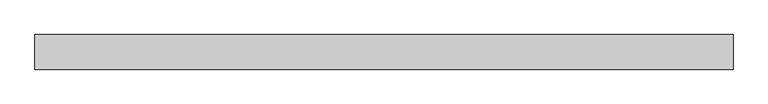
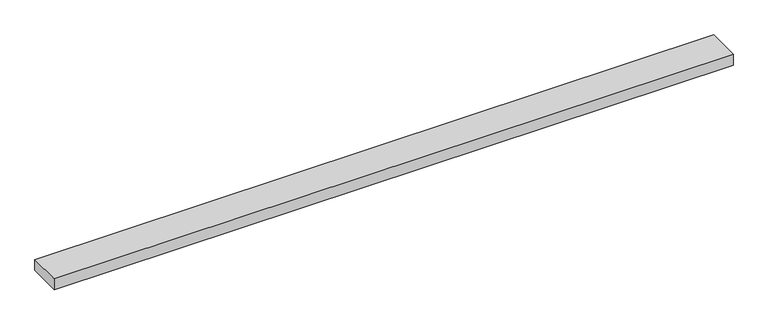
"""IFC4 building model written with IfcOpenShell, lengths in millimetres: proxy geometry, Vita_Решетка : РАП_Алюминиевая продольная."""

from ifc_helpers import new_model, si_unit, frame, origin, place, context, project, spatial, polyline, outline, extrude, source, transform, mapped, element, save


def mechanical_equipment_e0287927(model_context):
    return source(origin(), model_context, "Body", "SweptSolid", [
        extrude(outline(polyline([(-599.0, -112.8), (599.0, -112.8), (599.0, -172.2), (-599.0, -172.2), (-599.0, -112.8)])), frame((0.0, 0.0, 479.83), z_axis=(0.0, 0.0, 1.0), x_axis=(1.0, 0.0, 0.0)), (0.0, 0.0, 1.0), 20.17),
    ])


if __name__ == "__main__":
    model = new_model("IFC4")
    model_context = context("Model", 3, world=origin())
    ifc_project = project(units=[si_unit("LENGTHUNIT", "METRE", prefix="MILLI")], contexts=[model_context])
    site = spatial("IfcSite", under=ifc_project)
    building = spatial("IfcBuilding", under=site)
    placement = place(None, origin())
    mechanical_equipment_shape = mechanical_equipment_e0287927(model_context)
    element("IfcBuildingElementProxy", 1, Name="Vita_Решетка : РАП_Алюминиевая продольная", ObjectType="Vita_Решетка : РАП_Алюминиевая продольная", at=placement, inside=building, context=model_context, shape_type="MappedRepresentation", body=[
        mapped(mechanical_equipment_shape, transform((0.0, 0.0, 0.0), x_axis=(1.0, 0.0, 0.0), y_axis=(0.0, 1.0, 0.0), z_axis=(0.0, 0.0, 1.0))),
    ])
    save(model, "model.ifc")
